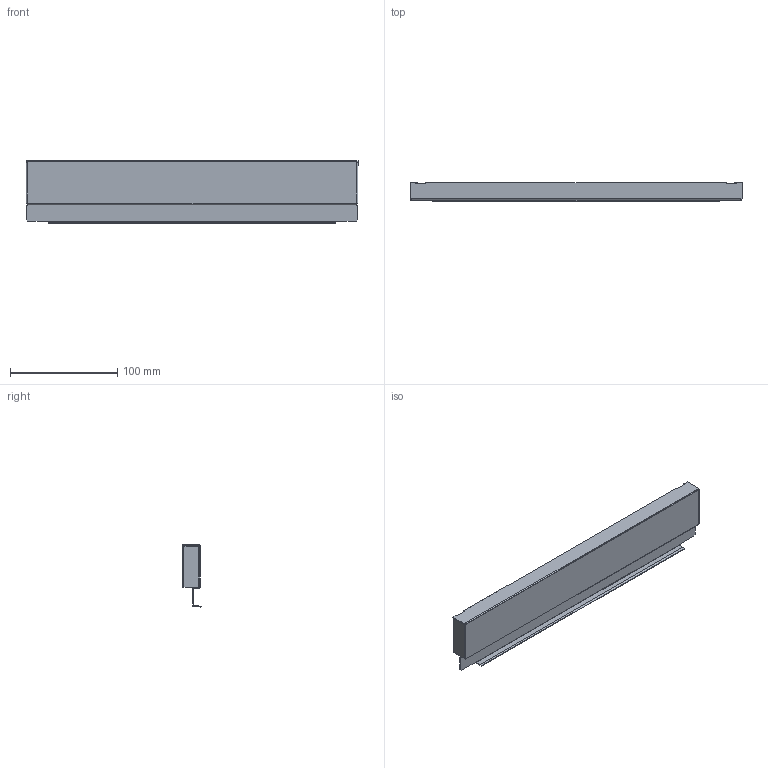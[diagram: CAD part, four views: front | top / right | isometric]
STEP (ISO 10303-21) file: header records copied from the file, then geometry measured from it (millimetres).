
FILE_DESCRIPTION (( 'STEP AP214' ), '1' );
FILE_NAME ('_STRW_H63_KAB_400.step', '2010-08-24T14:40:48', ( 'grass' ), ( '' ), 'SwSTEP 2.0', 'SolidWorks 2009', '' );
FILE_SCHEMA (( 'AUTOMOTIVE_DESIGN' ));
Length unit declared in the file: millimetre
Products named in the file (1): _STRW_H63_KAB_400
Bounding box: 310 x 17 x 58.14 mm (x, y, z)
Volume: 22008.6 mm3; surface area: 55727.9 mm2
Topology: 1 solids, 1 shells, 77 faces, 217 edges, 142 vertices
Faces by surface type: plane 54, cylinder 23
Entity records: 2507 total; most frequent: CARTESIAN_POINT 437, ORIENTED_EDGE 434, DIRECTION 419, EDGE_CURVE 217, LINE 171, VECTOR 171, VERTEX_POINT 142, AXIS2_PLACEMENT_3D 124
